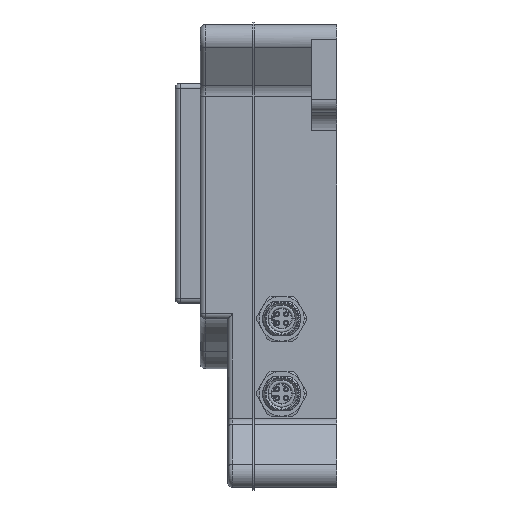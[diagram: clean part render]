
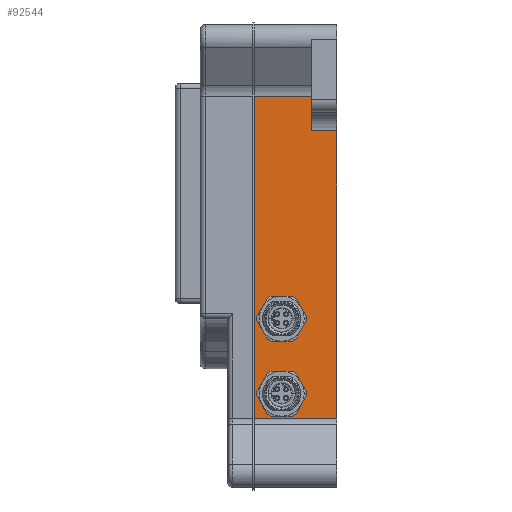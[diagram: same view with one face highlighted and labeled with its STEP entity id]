
A CAD part, left-side view. The second image highlights one B-rep face of the part: STEP entity #92544.
In plain terms, the highlighted planar face has unit normal (-1, 0, 0).
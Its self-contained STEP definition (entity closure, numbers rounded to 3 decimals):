
#190 = VECTOR ( 'NONE', #20848, 1000. ) ;
#701 = EDGE_CURVE ( 'NONE', #121223, #110839, #9328, .T. ) ;
#892 = LINE ( 'NONE', #110749, #42629 ) ;
#2424 = DIRECTION ( 'NONE',  ( 1., 0., 0. ) ) ;
#5570 = DIRECTION ( 'NONE',  ( 0., 0., 1. ) ) ;
#6238 = LINE ( 'NONE', #43140, #53608 ) ;
#6717 = VECTOR ( 'NONE', #115747, 1000. ) ;
#7973 = DIRECTION ( 'NONE',  ( 1., 0., 0. ) ) ;
#8030 = ORIENTED_EDGE ( 'NONE', *, *, #86219, .T. ) ;
#8465 = EDGE_CURVE ( 'NONE', #11419, #36767, #79697, .T. ) ;
#9328 = CIRCLE ( 'NONE', #106382, 7.7 ) ;
#11419 = VERTEX_POINT ( 'NONE', #45733 ) ;
#12131 = CARTESIAN_POINT ( 'NONE',  ( -55., 22., -55. ) ) ;
#12740 = VERTEX_POINT ( 'NONE', #66372 ) ;
#14036 = DIRECTION ( 'NONE',  ( 0., 0., -1. ) ) ;
#14396 = EDGE_CURVE ( 'NONE', #100592, #53292, #892, .T. ) ;
#15413 = CARTESIAN_POINT ( 'NONE',  ( -55., 25.612, -18.2 ) ) ;
#17671 = DIRECTION ( 'NONE',  ( 0., -1., 0. ) ) ;
#18302 = DIRECTION ( 'NONE',  ( 0., 0., -1. ) ) ;
#19394 = CARTESIAN_POINT ( 'NONE',  ( -55., 25.612, -31.8 ) ) ;
#19798 = VERTEX_POINT ( 'NONE', #110022 ) ;
#20587 = DIRECTION ( 'NONE',  ( 0., 1., 0. ) ) ;
#20848 = DIRECTION ( 'NONE',  ( 0., 1., 0. ) ) ;
#20960 = ORIENTED_EDGE ( 'NONE', *, *, #25570, .F. ) ;
#22787 = DIRECTION ( 'NONE',  ( 0., 0., -1. ) ) ;
#24091 = VERTEX_POINT ( 'NONE', #113794 ) ;
#24984 = EDGE_CURVE ( 'NONE', #36767, #12740, #39123, .T. ) ;
#25570 = EDGE_CURVE ( 'NONE', #27249, #19798, #6238, .T. ) ;
#26112 = CARTESIAN_POINT ( 'NONE',  ( -55., 18.388, -18.2 ) ) ;
#26136 = DIRECTION ( 'NONE',  ( 1., 0., 0. ) ) ;
#27249 = VERTEX_POINT ( 'NONE', #89142 ) ;
#29636 = LINE ( 'NONE', #98154, #113289 ) ;
#29916 = CARTESIAN_POINT ( 'NONE',  ( -55., 22., -25. ) ) ;
#30603 = FACE_BOUND ( 'NONE', #110982, .T. ) ;
#36343 = ORIENTED_EDGE ( 'NONE', *, *, #66021, .T. ) ;
#36440 = EDGE_LOOP ( 'NONE', ( #63599, #20960, #42883, #36343, #85733, #52321 ) ) ;
#36471 = CARTESIAN_POINT ( 'NONE',  ( -55., 22., -25. ) ) ;
#36767 = VERTEX_POINT ( 'NONE', #38971 ) ;
#36872 = LINE ( 'NONE', #76362, #6717 ) ;
#38971 = CARTESIAN_POINT ( 'NONE',  ( -55., 25.612, -61.8 ) ) ;
#39005 = PLANE ( 'NONE',  #125153 ) ;
#39123 = CIRCLE ( 'NONE', #70115, 7.7 ) ;
#40513 = CARTESIAN_POINT ( 'NONE',  ( -55., 33., 63.859 ) ) ;
#41598 = ORIENTED_EDGE ( 'NONE', *, *, #701, .T. ) ;
#42629 = VECTOR ( 'NONE', #79750, 1000. ) ;
#42883 = ORIENTED_EDGE ( 'NONE', *, *, #65363, .F. ) ;
#43140 = CARTESIAN_POINT ( 'NONE',  ( -55., 33., 50. ) ) ;
#44485 = DIRECTION ( 'NONE',  ( 0., -1., 0. ) ) ;
#44923 = VECTOR ( 'NONE', #22787, 1000. ) ;
#45733 = CARTESIAN_POINT ( 'NONE',  ( -55., 18.388, -61.8 ) ) ;
#45981 = AXIS2_PLACEMENT_3D ( 'NONE', #12131, #2424, #14036 ) ;
#48256 = ORIENTED_EDGE ( 'NONE', *, *, #51351, .T. ) ;
#51285 = ORIENTED_EDGE ( 'NONE', *, *, #24984, .T. ) ;
#51351 = EDGE_CURVE ( 'NONE', #110839, #76233, #74000, .T. ) ;
#52321 = ORIENTED_EDGE ( 'NONE', *, *, #94096, .T. ) ;
#53292 = VERTEX_POINT ( 'NONE', #40513 ) ;
#53608 = VECTOR ( 'NONE', #103213, 1000. ) ;
#54459 = EDGE_CURVE ( 'NONE', #70909, #19798, #61837, .T. ) ;
#55091 = LINE ( 'NONE', #94544, #112833 ) ;
#56509 = DIRECTION ( 'NONE',  ( 0., 0., -1. ) ) ;
#57514 = VECTOR ( 'NONE', #44485, 1000. ) ;
#59691 = FACE_BOUND ( 'NONE', #104269, .T. ) ;
#60921 = DIRECTION ( 'NONE',  ( 1., 0., 0. ) ) ;
#61837 = LINE ( 'NONE', #63113, #73122 ) ;
#63113 = CARTESIAN_POINT ( 'NONE',  ( -55., 0., 50. ) ) ;
#63599 = ORIENTED_EDGE ( 'NONE', *, *, #54459, .T. ) ;
#65363 = EDGE_CURVE ( 'NONE', #114703, #27249, #92634, .T. ) ;
#65459 = DIRECTION ( 'NONE',  ( 0., 1., 0. ) ) ;
#66021 = EDGE_CURVE ( 'NONE', #114703, #53292, #29636, .T. ) ;
#66372 = CARTESIAN_POINT ( 'NONE',  ( -55., 25.612, -48.2 ) ) ;
#70115 = AXIS2_PLACEMENT_3D ( 'NONE', #106857, #7973, #18302 ) ;
#70676 = DIRECTION ( 'NONE',  ( 0., 0., -1. ) ) ;
#70704 = DIRECTION ( 'NONE',  ( 1., 0., 0. ) ) ;
#70909 = VERTEX_POINT ( 'NONE', #92824 ) ;
#73122 = VECTOR ( 'NONE', #5570, 1000. ) ;
#74000 = LINE ( 'NONE', #75257, #103577 ) ;
#75257 = CARTESIAN_POINT ( 'NONE',  ( -55., 33., -18.2 ) ) ;
#76233 = VERTEX_POINT ( 'NONE', #26112 ) ;
#76362 = CARTESIAN_POINT ( 'NONE',  ( -55., 33., -48.2 ) ) ;
#77329 = CARTESIAN_POINT ( 'NONE',  ( -55., 33., -64.93 ) ) ;
#78475 = CARTESIAN_POINT ( 'NONE',  ( -55., 33., 50. ) ) ;
#79277 = AXIS2_PLACEMENT_3D ( 'NONE', #29916, #60921, #70676 ) ;
#79697 = LINE ( 'NONE', #92587, #190 ) ;
#79750 = DIRECTION ( 'NONE',  ( 0., 0., 1. ) ) ;
#80265 = ORIENTED_EDGE ( 'NONE', *, *, #87136, .T. ) ;
#83527 = ORIENTED_EDGE ( 'NONE', *, *, #8465, .T. ) ;
#85733 = ORIENTED_EDGE ( 'NONE', *, *, #14396, .F. ) ;
#86219 = EDGE_CURVE ( 'NONE', #12740, #116900, #36872, .T. ) ;
#87136 = EDGE_CURVE ( 'NONE', #76233, #24091, #101950, .T. ) ;
#88412 = ORIENTED_EDGE ( 'NONE', *, *, #118727, .T. ) ;
#89142 = CARTESIAN_POINT ( 'NONE',  ( -55., 10., 50. ) ) ;
#91380 = CIRCLE ( 'NONE', #45981, 7.7 ) ;
#92544 = ADVANCED_FACE ( 'NONE', ( #30603, #59691, #99113 ), #39005, .F. ) ;
#92587 = CARTESIAN_POINT ( 'NONE',  ( -55., 33., -61.8 ) ) ;
#92634 = LINE ( 'NONE', #113290, #44923 ) ;
#92824 = CARTESIAN_POINT ( 'NONE',  ( -55., 0., -64.93 ) ) ;
#94096 = EDGE_CURVE ( 'NONE', #100592, #70909, #106467, .T. ) ;
#94544 = CARTESIAN_POINT ( 'NONE',  ( -55., 33., -31.8 ) ) ;
#98154 = CARTESIAN_POINT ( 'NONE',  ( -55., 10., 63.859 ) ) ;
#99113 = FACE_OUTER_BOUND ( 'NONE', #36440, .T. ) ;
#99346 = EDGE_CURVE ( 'NONE', #116900, #11419, #91380, .T. ) ;
#100592 = VERTEX_POINT ( 'NONE', #77329 ) ;
#101950 = CIRCLE ( 'NONE', #79277, 7.7 ) ;
#103213 = DIRECTION ( 'NONE',  ( 0., -1., 0. ) ) ;
#103577 = VECTOR ( 'NONE', #17671, 1000. ) ;
#104269 = EDGE_LOOP ( 'NONE', ( #48256, #80265, #88412, #41598 ) ) ;
#106382 = AXIS2_PLACEMENT_3D ( 'NONE', #36471, #26136, #56509 ) ;
#106467 = LINE ( 'NONE', #125855, #57514 ) ;
#106857 = CARTESIAN_POINT ( 'NONE',  ( -55., 22., -55. ) ) ;
#110022 = CARTESIAN_POINT ( 'NONE',  ( -55., 0., 50. ) ) ;
#110126 = DIRECTION ( 'NONE',  ( 0., 0., -1. ) ) ;
#110749 = CARTESIAN_POINT ( 'NONE',  ( -55., 33., 50. ) ) ;
#110839 = VERTEX_POINT ( 'NONE', #15413 ) ;
#110982 = EDGE_LOOP ( 'NONE', ( #8030, #127730, #83527, #51285 ) ) ;
#111297 = CARTESIAN_POINT ( 'NONE',  ( -55., 10., 63.859 ) ) ;
#112833 = VECTOR ( 'NONE', #65459, 1000. ) ;
#113289 = VECTOR ( 'NONE', #20587, 1000. ) ;
#113290 = CARTESIAN_POINT ( 'NONE',  ( -55., 10., 50. ) ) ;
#113794 = CARTESIAN_POINT ( 'NONE',  ( -55., 18.388, -31.8 ) ) ;
#114703 = VERTEX_POINT ( 'NONE', #111297 ) ;
#115747 = DIRECTION ( 'NONE',  ( 0., -1., 0. ) ) ;
#116900 = VERTEX_POINT ( 'NONE', #121470 ) ;
#118727 = EDGE_CURVE ( 'NONE', #24091, #121223, #55091, .T. ) ;
#121223 = VERTEX_POINT ( 'NONE', #19394 ) ;
#121470 = CARTESIAN_POINT ( 'NONE',  ( -55., 18.388, -48.2 ) ) ;
#125153 = AXIS2_PLACEMENT_3D ( 'NONE', #78475, #70704, #110126 ) ;
#125855 = CARTESIAN_POINT ( 'NONE',  ( -55., 33., -64.93 ) ) ;
#127730 = ORIENTED_EDGE ( 'NONE', *, *, #99346, .T. ) ;
